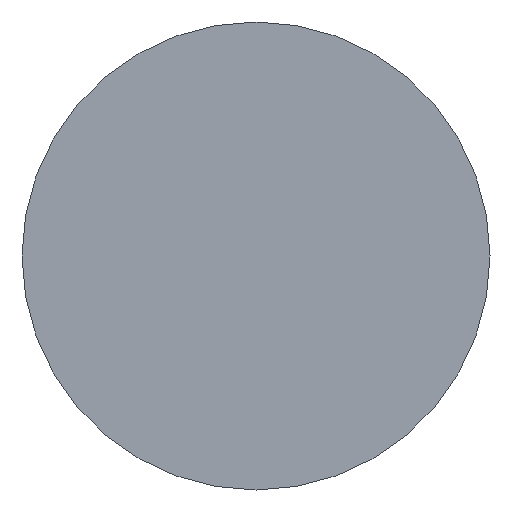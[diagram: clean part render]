
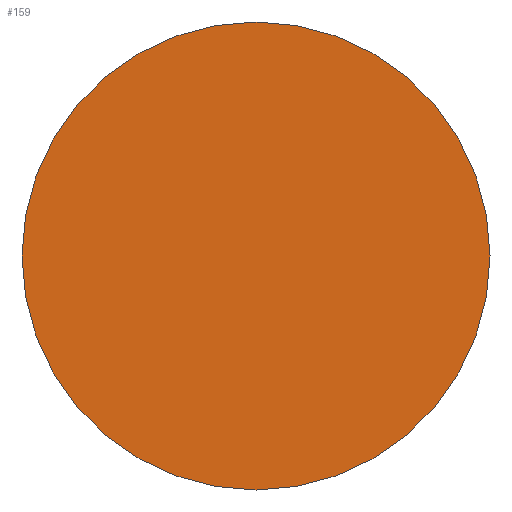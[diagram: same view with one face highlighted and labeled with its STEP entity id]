
A CAD part, left-side view. The second image highlights one B-rep face of the part: STEP entity #159.
In plain terms, the highlighted planar face has unit normal (-1, 0, 0).
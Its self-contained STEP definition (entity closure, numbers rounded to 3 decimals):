
#23 = CARTESIAN_POINT ( 'NONE',  ( 0., 0., 0. ) ) ;
#24 = DIRECTION ( 'NONE',  ( 1., 0., 0. ) ) ;
#52 = ORIENTED_EDGE ( 'NONE', *, *, #213, .F. ) ;
#55 = VERTEX_POINT ( 'NONE', #100 ) ;
#68 = ORIENTED_EDGE ( 'NONE', *, *, #162, .F. ) ;
#80 = CARTESIAN_POINT ( 'NONE',  ( 0., 0., 0. ) ) ;
#86 = EDGE_LOOP ( 'NONE', ( #52, #68 ) ) ;
#87 = AXIS2_PLACEMENT_3D ( 'NONE', #175, #24, #268 ) ;
#99 = CIRCLE ( 'NONE', #87, 3.5 ) ;
#100 = CARTESIAN_POINT ( 'NONE',  ( 0., 3.5, 0. ) ) ;
#101 = AXIS2_PLACEMENT_3D ( 'NONE', #80, #260, #232 ) ;
#118 = CARTESIAN_POINT ( 'NONE',  ( 0., -3.5, 0. ) ) ;
#125 = FACE_OUTER_BOUND ( 'NONE', #86, .T. ) ;
#159 = ADVANCED_FACE ( 'NONE', ( #125 ), #270, .T. ) ;
#162 = EDGE_CURVE ( 'NONE', #247, #55, #248, .T. ) ;
#175 = CARTESIAN_POINT ( 'NONE',  ( 0., 0., 0. ) ) ;
#212 = AXIS2_PLACEMENT_3D ( 'NONE', #23, #243, #225 ) ;
#213 = EDGE_CURVE ( 'NONE', #55, #247, #99, .T. ) ;
#225 = DIRECTION ( 'NONE',  ( 0., 1., 0. ) ) ;
#232 = DIRECTION ( 'NONE',  ( 0., -1., 0. ) ) ;
#243 = DIRECTION ( 'NONE',  ( 1., 0., 0. ) ) ;
#247 = VERTEX_POINT ( 'NONE', #118 ) ;
#248 = CIRCLE ( 'NONE', #212, 3.5 ) ;
#260 = DIRECTION ( 'NONE',  ( -1., 0., 0. ) ) ;
#268 = DIRECTION ( 'NONE',  ( 0., 1., 0. ) ) ;
#270 = PLANE ( 'NONE',  #101 ) ;
